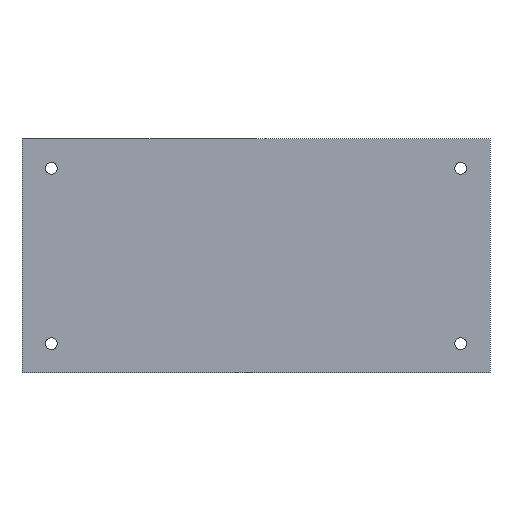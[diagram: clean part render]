
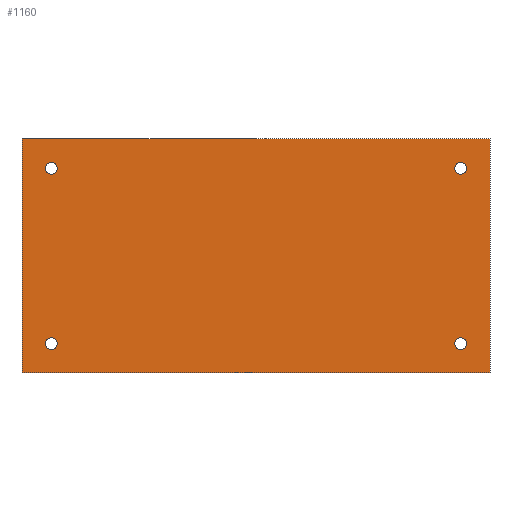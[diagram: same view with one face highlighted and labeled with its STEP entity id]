
A CAD part, front view. The second image highlights one B-rep face of the part: STEP entity #1160.
In plain terms, the highlighted planar face has unit normal (0, -1, 0).
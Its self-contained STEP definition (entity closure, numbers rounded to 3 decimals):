
#5 = FACE_BOUND ( 'NONE', #1318, .T. ) ;
#8 = DIRECTION ( 'NONE',  ( 0., 1., 0. ) ) ;
#29 = AXIS2_PLACEMENT_3D ( 'NONE', #282, #258, #759 ) ;
#41 = CARTESIAN_POINT ( 'NONE',  ( -200., 0., -100. ) ) ;
#52 = VERTEX_POINT ( 'NONE', #334 ) ;
#59 = VERTEX_POINT ( 'NONE', #345 ) ;
#82 = CIRCLE ( 'NONE', #668, 5. ) ;
#93 = ORIENTED_EDGE ( 'NONE', *, *, #1402, .T. ) ;
#108 = CARTESIAN_POINT ( 'NONE',  ( 0., 0., 0. ) ) ;
#118 = CARTESIAN_POINT ( 'NONE',  ( -175., 0., -75. ) ) ;
#138 = CIRCLE ( 'NONE', #390, 5. ) ;
#147 = VERTEX_POINT ( 'NONE', #634 ) ;
#151 = EDGE_CURVE ( 'NONE', #52, #1361, #1359, .T. ) ;
#162 = VECTOR ( 'NONE', #990, 1000. ) ;
#183 = AXIS2_PLACEMENT_3D ( 'NONE', #945, #1313, #202 ) ;
#196 = VERTEX_POINT ( 'NONE', #767 ) ;
#201 = ORIENTED_EDGE ( 'NONE', *, *, #1136, .F. ) ;
#202 = DIRECTION ( 'NONE',  ( 0., 0., 1. ) ) ;
#207 = ORIENTED_EDGE ( 'NONE', *, *, #1079, .T. ) ;
#241 = FACE_BOUND ( 'NONE', #277, .T. ) ;
#245 = DIRECTION ( 'NONE',  ( 0., 0., 1. ) ) ;
#254 = EDGE_CURVE ( 'NONE', #428, #837, #1452, .T. ) ;
#258 = DIRECTION ( 'NONE',  ( 0., 1., 0. ) ) ;
#277 = EDGE_LOOP ( 'NONE', ( #1407, #1413 ) ) ;
#280 = DIRECTION ( 'NONE',  ( 0., 1., 0. ) ) ;
#282 = CARTESIAN_POINT ( 'NONE',  ( 175., 0., -75. ) ) ;
#293 = AXIS2_PLACEMENT_3D ( 'NONE', #118, #1101, #1348 ) ;
#322 = EDGE_LOOP ( 'NONE', ( #421, #1284 ) ) ;
#324 = DIRECTION ( 'NONE',  ( 0., 1., 0. ) ) ;
#334 = CARTESIAN_POINT ( 'NONE',  ( 175., 0., -70. ) ) ;
#337 = CARTESIAN_POINT ( 'NONE',  ( 200., 0., -100. ) ) ;
#345 = CARTESIAN_POINT ( 'NONE',  ( 175., 0., 70. ) ) ;
#352 = DIRECTION ( 'NONE',  ( 0., 0., -1. ) ) ;
#369 = VECTOR ( 'NONE', #511, 1000. ) ;
#370 = CARTESIAN_POINT ( 'NONE',  ( 175., 0., -80. ) ) ;
#374 = EDGE_CURVE ( 'NONE', #196, #498, #902, .T. ) ;
#378 = ORIENTED_EDGE ( 'NONE', *, *, #527, .T. ) ;
#390 = AXIS2_PLACEMENT_3D ( 'NONE', #997, #8, #245 ) ;
#415 = VECTOR ( 'NONE', #352, 1000. ) ;
#421 = ORIENTED_EDGE ( 'NONE', *, *, #1046, .T. ) ;
#428 = VERTEX_POINT ( 'NONE', #702 ) ;
#451 = CARTESIAN_POINT ( 'NONE',  ( -175., 0., -75. ) ) ;
#498 = VERTEX_POINT ( 'NONE', #1321 ) ;
#511 = DIRECTION ( 'NONE',  ( -1., 0., 0. ) ) ;
#512 = CARTESIAN_POINT ( 'NONE',  ( -175., 0., 70. ) ) ;
#527 = EDGE_CURVE ( 'NONE', #498, #196, #1337, .T. ) ;
#541 = AXIS2_PLACEMENT_3D ( 'NONE', #108, #983, #841 ) ;
#556 = CARTESIAN_POINT ( 'NONE',  ( -175., 0., 80. ) ) ;
#564 = CARTESIAN_POINT ( 'NONE',  ( 200., 0., -100. ) ) ;
#572 = DIRECTION ( 'NONE',  ( 0., 1., 0. ) ) ;
#577 = DIRECTION ( 'NONE',  ( 0., 0., 1. ) ) ;
#579 = ORIENTED_EDGE ( 'NONE', *, *, #254, .F. ) ;
#608 = EDGE_CURVE ( 'NONE', #837, #609, #1200, .T. ) ;
#609 = VERTEX_POINT ( 'NONE', #41 ) ;
#611 = FACE_OUTER_BOUND ( 'NONE', #761, .T. ) ;
#624 = VERTEX_POINT ( 'NONE', #1120 ) ;
#626 = PLANE ( 'NONE',  #541 ) ;
#634 = CARTESIAN_POINT ( 'NONE',  ( -200., 0., 100. ) ) ;
#666 = AXIS2_PLACEMENT_3D ( 'NONE', #1042, #324, #1290 ) ;
#668 = AXIS2_PLACEMENT_3D ( 'NONE', #1371, #280, #757 ) ;
#671 = DIRECTION ( 'NONE',  ( 0., 1., 0. ) ) ;
#702 = CARTESIAN_POINT ( 'NONE',  ( 200., 0., 100. ) ) ;
#710 = CARTESIAN_POINT ( 'NONE',  ( -200., 0., -100. ) ) ;
#744 = AXIS2_PLACEMENT_3D ( 'NONE', #451, #671, #577 ) ;
#757 = DIRECTION ( 'NONE',  ( 0., 0., 1. ) ) ;
#759 = DIRECTION ( 'NONE',  ( 0., 0., 1. ) ) ;
#761 = EDGE_LOOP ( 'NONE', ( #579, #1092, #201, #1439 ) ) ;
#767 = CARTESIAN_POINT ( 'NONE',  ( -175., 0., -80. ) ) ;
#819 = VECTOR ( 'NONE', #1322, 1000. ) ;
#833 = LINE ( 'NONE', #1316, #819 ) ;
#837 = VERTEX_POINT ( 'NONE', #337 ) ;
#841 = DIRECTION ( 'NONE',  ( 0., 0., 1. ) ) ;
#861 = EDGE_CURVE ( 'NONE', #887, #1285, #1333, .T. ) ;
#887 = VERTEX_POINT ( 'NONE', #556 ) ;
#902 = CIRCLE ( 'NONE', #744, 5. ) ;
#945 = CARTESIAN_POINT ( 'NONE',  ( -175., 0., 75. ) ) ;
#950 = EDGE_CURVE ( 'NONE', #147, #428, #833, .T. ) ;
#983 = DIRECTION ( 'NONE',  ( 0., 1., 0. ) ) ;
#990 = DIRECTION ( 'NONE',  ( 0., 0., 1. ) ) ;
#996 = LINE ( 'NONE', #710, #162 ) ;
#997 = CARTESIAN_POINT ( 'NONE',  ( 175., 0., 75. ) ) ;
#1042 = CARTESIAN_POINT ( 'NONE',  ( -175., 0., 75. ) ) ;
#1046 = EDGE_CURVE ( 'NONE', #1285, #887, #1358, .T. ) ;
#1062 = DIRECTION ( 'NONE',  ( 0., 0., 1. ) ) ;
#1079 = EDGE_CURVE ( 'NONE', #59, #624, #1204, .T. ) ;
#1081 = AXIS2_PLACEMENT_3D ( 'NONE', #1176, #572, #1062 ) ;
#1088 = CARTESIAN_POINT ( 'NONE',  ( -200., 0., -100. ) ) ;
#1092 = ORIENTED_EDGE ( 'NONE', *, *, #950, .F. ) ;
#1094 = FACE_BOUND ( 'NONE', #322, .T. ) ;
#1101 = DIRECTION ( 'NONE',  ( 0., 1., 0. ) ) ;
#1102 = FACE_BOUND ( 'NONE', #1175, .T. ) ;
#1120 = CARTESIAN_POINT ( 'NONE',  ( 175., 0., 80. ) ) ;
#1136 = EDGE_CURVE ( 'NONE', #609, #147, #996, .T. ) ;
#1160 = ADVANCED_FACE ( 'NONE', ( #611, #241, #1102, #5, #1094 ), #626, .F. ) ;
#1175 = EDGE_LOOP ( 'NONE', ( #207, #93 ) ) ;
#1176 = CARTESIAN_POINT ( 'NONE',  ( 175., 0., 75. ) ) ;
#1200 = LINE ( 'NONE', #1088, #369 ) ;
#1204 = CIRCLE ( 'NONE', #1081, 5. ) ;
#1284 = ORIENTED_EDGE ( 'NONE', *, *, #861, .T. ) ;
#1285 = VERTEX_POINT ( 'NONE', #512 ) ;
#1290 = DIRECTION ( 'NONE',  ( 0., 0., 1. ) ) ;
#1299 = EDGE_CURVE ( 'NONE', #1361, #52, #82, .T. ) ;
#1310 = ORIENTED_EDGE ( 'NONE', *, *, #374, .T. ) ;
#1313 = DIRECTION ( 'NONE',  ( 0., 1., 0. ) ) ;
#1316 = CARTESIAN_POINT ( 'NONE',  ( -200., 0., 100. ) ) ;
#1318 = EDGE_LOOP ( 'NONE', ( #1310, #378 ) ) ;
#1321 = CARTESIAN_POINT ( 'NONE',  ( -175., 0., -70. ) ) ;
#1322 = DIRECTION ( 'NONE',  ( 1., 0., 0. ) ) ;
#1333 = CIRCLE ( 'NONE', #183, 5. ) ;
#1337 = CIRCLE ( 'NONE', #293, 5. ) ;
#1348 = DIRECTION ( 'NONE',  ( 0., 0., 1. ) ) ;
#1358 = CIRCLE ( 'NONE', #666, 5. ) ;
#1359 = CIRCLE ( 'NONE', #29, 5. ) ;
#1361 = VERTEX_POINT ( 'NONE', #370 ) ;
#1371 = CARTESIAN_POINT ( 'NONE',  ( 175., 0., -75. ) ) ;
#1402 = EDGE_CURVE ( 'NONE', #624, #59, #138, .T. ) ;
#1407 = ORIENTED_EDGE ( 'NONE', *, *, #1299, .T. ) ;
#1413 = ORIENTED_EDGE ( 'NONE', *, *, #151, .T. ) ;
#1439 = ORIENTED_EDGE ( 'NONE', *, *, #608, .F. ) ;
#1452 = LINE ( 'NONE', #564, #415 ) ;
